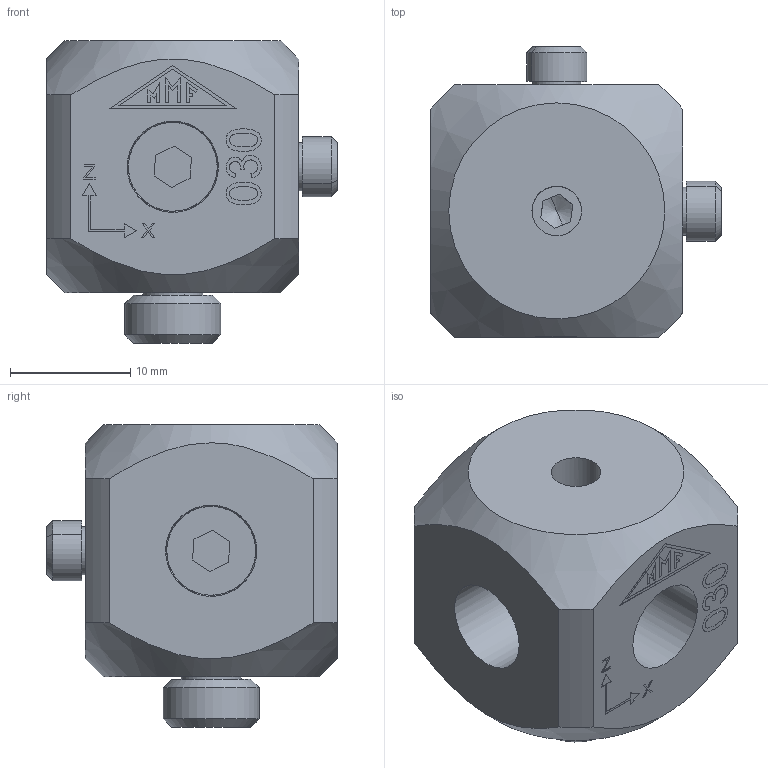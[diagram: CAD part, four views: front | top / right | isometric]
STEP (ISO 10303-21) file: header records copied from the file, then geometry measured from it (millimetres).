
FILE_DESCRIPTION(/* description */ ('Alibre Inc.'),/* implementation_level */ '2;1');
FILE_NAME(/* name */ 'export-831EB893-EEE3-4E02-B1C9-D9909A12CA0A',/* time_stamp */ '2024-02-19T17:38:56+01:00',/* author */ (''),/* organization */ (''),/* preprocessor_version */ 'ST-DEVELOPER v17',/* originating_system */ 'Alibre',/* authorisation */ '');
FILE_SCHEMA (('CONFIG_CONTROL_DESIGN'));
Length unit declared in the file: millimetre
Bounding box: 24.2 x 24.2 x 25.2 mm (x, y, z)
Volume: 7590.8 mm3; surface area: 3469.6 mm2
Topology: 1 solids, 1 shells, 233 faces, 621 edges, 411 vertices
Faces by surface type: plane 124, bspline 72, cylinder 23, cone 14
Full cylindrical faces by diameter (mm): 4 x2, 4.134 x4, 7.4 x2, 7.6 x4, 8 x1
Entity records: 7119 total; most frequent: CARTESIAN_POINT 2079, ORIENTED_EDGE 1168, DIRECTION 649, EDGE_CURVE 584, VERTEX_POINT 397, VECTOR 362, LINE 362, EDGE_LOOP 281
